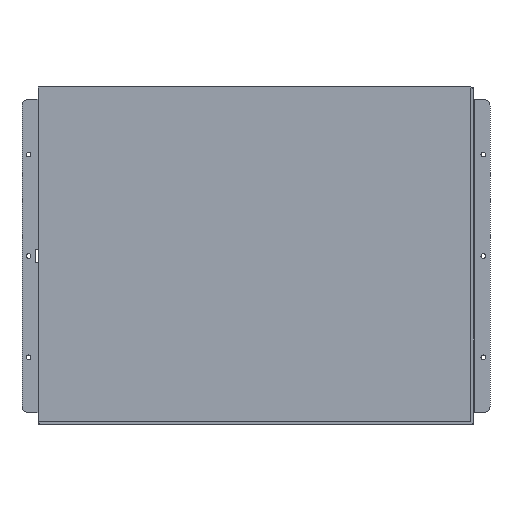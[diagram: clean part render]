
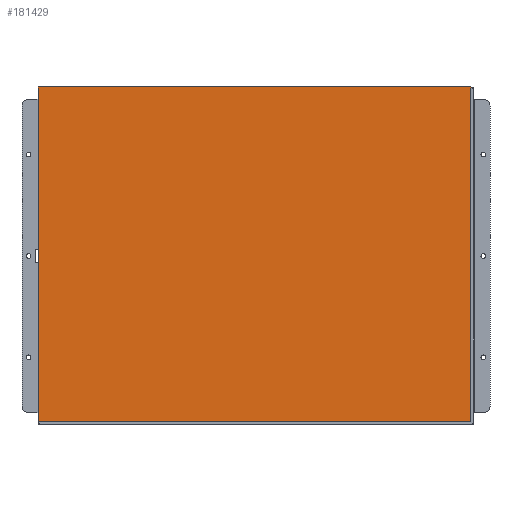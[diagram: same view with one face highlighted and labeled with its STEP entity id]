
A CAD part, front view. The second image highlights one B-rep face of the part: STEP entity #181429.
In plain terms, the highlighted planar face has unit normal (0, -1, 0) as drawn and (0, 0, 1) by its records, which use the part's own axes.
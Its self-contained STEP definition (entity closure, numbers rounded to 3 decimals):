
#181350=DIRECTION('',(1.,0.,0.));
#181351=VECTOR('',#181350,324.5);
#181352=CARTESIAN_POINT('',(-161.25,124.25,0.));
#181353=LINE('',#181352,#181351);
#181354=DIRECTION('',(0.,-1.,0.));
#181355=VECTOR('',#181354,251.);
#181356=CARTESIAN_POINT('',(163.25,124.25,0.));
#181357=LINE('',#181356,#181355);
#181358=DIRECTION('',(-1.,0.,0.));
#181359=VECTOR('',#181358,324.5);
#181360=CARTESIAN_POINT('',(163.25,-126.75,0.));
#181361=LINE('',#181360,#181359);
#181362=DIRECTION('',(0.,1.,0.));
#181363=VECTOR('',#181362,251.);
#181364=CARTESIAN_POINT('',(-161.25,-126.75,0.));
#181365=LINE('',#181364,#181363);
#181398=CARTESIAN_POINT('',(-161.25,124.25,0.));
#181399=CARTESIAN_POINT('',(163.25,124.25,0.));
#181400=VERTEX_POINT('',#181398);
#181401=VERTEX_POINT('',#181399);
#181402=CARTESIAN_POINT('',(163.25,-126.75,0.));
#181403=VERTEX_POINT('',#181402);
#181404=CARTESIAN_POINT('',(-161.25,-126.75,0.));
#181405=VERTEX_POINT('',#181404);
#181414=CARTESIAN_POINT('',(0.,0.,0.));
#181415=DIRECTION('',(0.,0.,1.));
#181416=DIRECTION('',(1.,0.,0.));
#181417=AXIS2_PLACEMENT_3D('',#181414,#181415,#181416);
#181418=PLANE('',#181417);
#181420=ORIENTED_EDGE('',*,*,#181419,.T.);
#181422=ORIENTED_EDGE('',*,*,#181421,.T.);
#181424=ORIENTED_EDGE('',*,*,#181423,.T.);
#181426=ORIENTED_EDGE('',*,*,#181425,.T.);
#181427=EDGE_LOOP('',(#181420,#181422,#181424,#181426));
#181428=FACE_OUTER_BOUND('',#181427,.F.);
#181419=EDGE_CURVE('',#181400,#181401,#181353,.T.);
#181421=EDGE_CURVE('',#181401,#181403,#181357,.T.);
#181423=EDGE_CURVE('',#181403,#181405,#181361,.T.);
#181425=EDGE_CURVE('',#181405,#181400,#181365,.T.);
#181429=ADVANCED_FACE('',(#181428),#181418,.T.);
